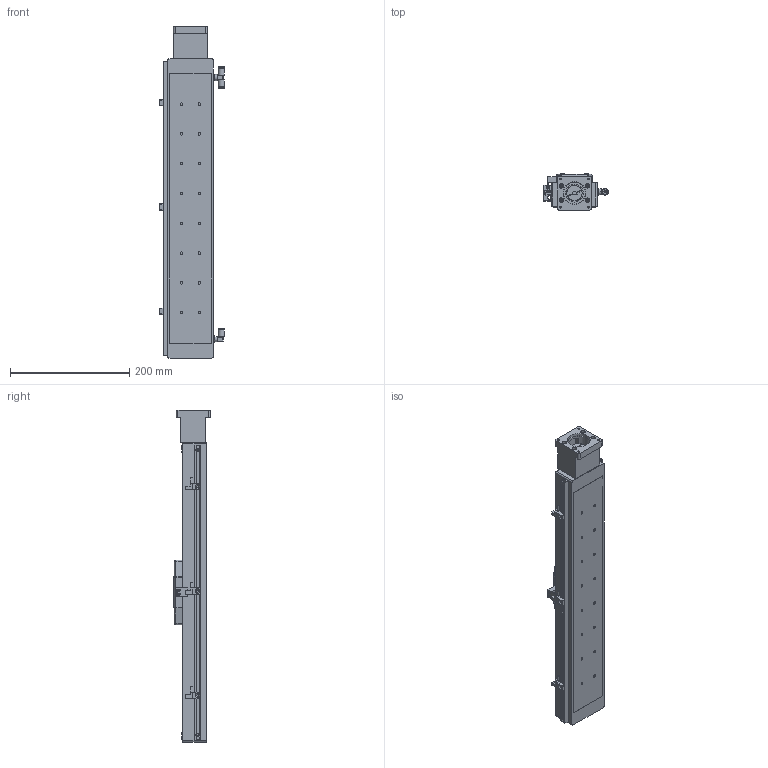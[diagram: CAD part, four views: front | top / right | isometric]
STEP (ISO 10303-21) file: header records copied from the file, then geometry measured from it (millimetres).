
FILE_DESCRIPTION((''),'2;1');
FILE_NAME('E:\catalogue and flyer\actuator catalogue 2015\dwg fr wg\UIA076CR9DC\UIA076CR9DC-stp file 05May16\UIA076CR9DC-350-R12_ _-M23-P13-C10-S.stp','2016-05-05T13:13:53',('h029'),(''),'Autodesk Inventor 11','Autodesk Inventor 11','');
FILE_SCHEMA(('AUTOMOTIVE_DESIGN { 1 0 10303 214 1 1 1 1 }'));
Length unit declared in the file: millimetre
Products named in the file (14): UIA076CR9DC-350; UIA076CR9DC-body; carriage-076CR; SOH25C; side 2; side 1; centre piece; 26-100 0071 sensor flag; GWL4-M5; GWT4-M5; 26-100 0110-M23; Sensor rail; Sensor Bracket ; Sensor
Assembly tree (17 placements, depth 3):
  UIA076CR9DC-350
    UIA076CR9DC-body
    carriage-076CR
    SOH25C
      side 2
      side 1
      centre piece
    26-100 0071 sensor flag
    GWL4-M5
    GWT4-M5
    26-100 0110-M23
    Sensor rail
    Sensor Bracket   x3
    Sensor  x3
Bounding box: 108.1 x 61 x 557 mm (x, y, z)
Volume: 1722047.6 mm3; surface area: 224528 mm2
Topology: 18 solids, 18 shells, 689 faces, 1782 edges, 1151 vertices
Faces by surface type: plane 355, bspline 156, cylinder 152, sphere 16, cone 10
Full cylindrical faces by diameter (mm): 2.459 x4, 2.5 x3, 8 x2, 25.5 x3, 30 x1, 37 x1, 38.1 x1
Entity records: 19525 total; most frequent: CARTESIAN_POINT 5631, DIRECTION 2765, ORIENTED_EDGE 2674, EDGE_CURVE 1337, AXIS2_PLACEMENT_3D 978, VERTEX_POINT 921, EDGE_LOOP 814, VECTOR 809
